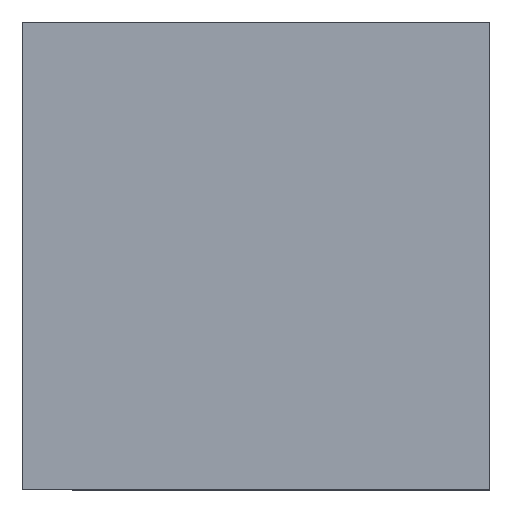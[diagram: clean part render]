
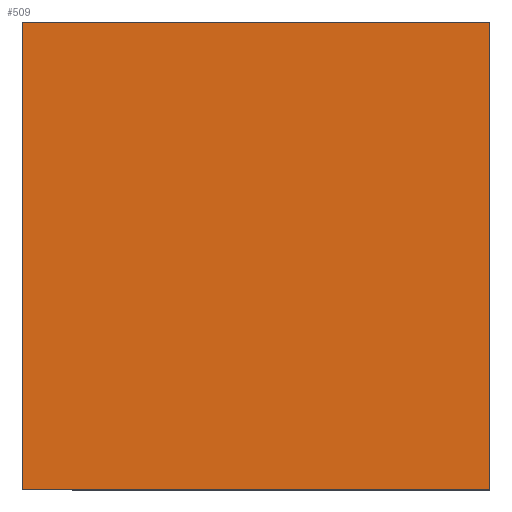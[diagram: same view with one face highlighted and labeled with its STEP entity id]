
A CAD part, top view. The second image highlights one B-rep face of the part: STEP entity #509.
In plain terms, the highlighted planar face has unit normal (0, 0, 1).
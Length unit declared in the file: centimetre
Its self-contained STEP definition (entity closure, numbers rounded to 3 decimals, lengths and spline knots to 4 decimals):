
#42 = VECTOR ( 'NONE', #1125, 100. ) ;
#73 = CARTESIAN_POINT ( 'NONE',  ( 0., 0., 1000. ) ) ;
#90 = DIRECTION ( 'NONE',  ( 0., -1., 0. ) ) ;
#143 = ORIENTED_EDGE ( 'NONE', *, *, #483, .T. ) ;
#199 = CARTESIAN_POINT ( 'NONE',  ( 1000., 0., 1000. ) ) ;
#283 = DIRECTION ( 'NONE',  ( 0., 0., 1. ) ) ;
#287 = LINE ( 'NONE', #924, #42 ) ;
#312 = DIRECTION ( 'NONE',  ( -1., 0., 0. ) ) ;
#318 = CARTESIAN_POINT ( 'NONE',  ( 1000., 1000., 1000. ) ) ;
#364 = CARTESIAN_POINT ( 'NONE',  ( 1000., 1000., 1000. ) ) ;
#374 = EDGE_CURVE ( 'NONE', #1059, #1103, #540, .T. ) ;
#391 = LINE ( 'NONE', #710, #600 ) ;
#481 = PLANE ( 'NONE',  #1291 ) ;
#483 = EDGE_CURVE ( 'NONE', #1103, #653, #391, .T. ) ;
#504 = DIRECTION ( 'NONE',  ( 1., 0., 0. ) ) ;
#509 = ADVANCED_FACE ( 'NONE', ( #614 ), #481, .T. ) ;
#540 = LINE ( 'NONE', #742, #1129 ) ;
#555 = EDGE_CURVE ( 'NONE', #653, #744, #287, .T. ) ;
#573 = CARTESIAN_POINT ( 'NONE',  ( 0., 1000., 1000. ) ) ;
#600 = VECTOR ( 'NONE', #90, 100. ) ;
#614 = FACE_OUTER_BOUND ( 'NONE', #696, .T. ) ;
#653 = VERTEX_POINT ( 'NONE', #73 ) ;
#696 = EDGE_LOOP ( 'NONE', ( #143, #763, #832, #926 ) ) ;
#710 = CARTESIAN_POINT ( 'NONE',  ( 0., 1000., 1000. ) ) ;
#715 = LINE ( 'NONE', #318, #1020 ) ;
#720 = DIRECTION ( 'NONE',  ( 0., 1., 0. ) ) ;
#742 = CARTESIAN_POINT ( 'NONE',  ( 0., 1000., 1000. ) ) ;
#744 = VERTEX_POINT ( 'NONE', #199 ) ;
#763 = ORIENTED_EDGE ( 'NONE', *, *, #555, .T. ) ;
#810 = EDGE_CURVE ( 'NONE', #744, #1059, #715, .T. ) ;
#832 = ORIENTED_EDGE ( 'NONE', *, *, #810, .T. ) ;
#924 = CARTESIAN_POINT ( 'NONE',  ( 0., 0., 1000. ) ) ;
#926 = ORIENTED_EDGE ( 'NONE', *, *, #374, .T. ) ;
#1015 = CARTESIAN_POINT ( 'NONE',  ( 0., 0., 1000. ) ) ;
#1020 = VECTOR ( 'NONE', #720, 100. ) ;
#1059 = VERTEX_POINT ( 'NONE', #364 ) ;
#1103 = VERTEX_POINT ( 'NONE', #573 ) ;
#1125 = DIRECTION ( 'NONE',  ( 1., 0., 0. ) ) ;
#1129 = VECTOR ( 'NONE', #312, 100. ) ;
#1291 = AXIS2_PLACEMENT_3D ( 'NONE', #1015, #283, #504 ) ;
